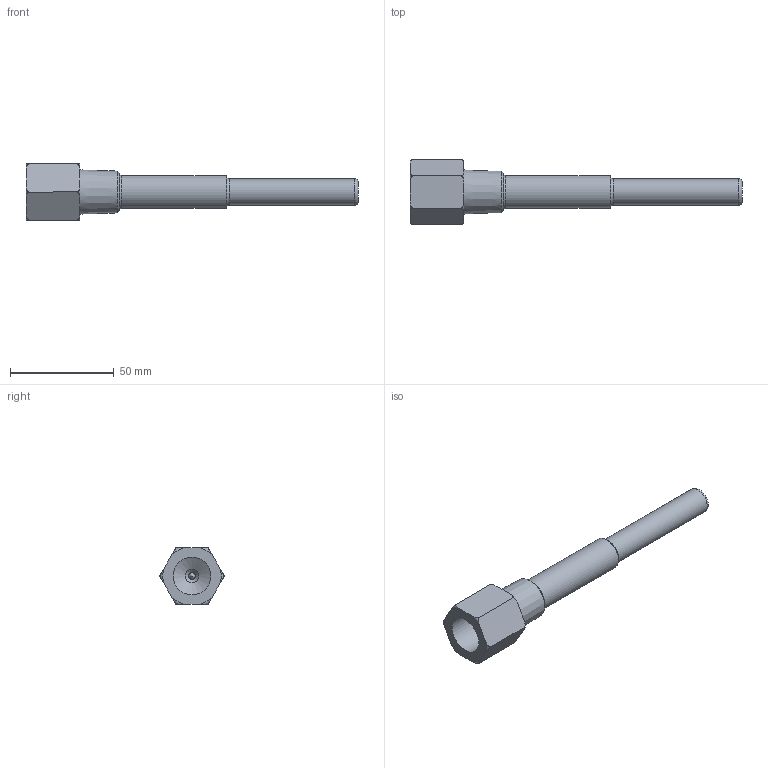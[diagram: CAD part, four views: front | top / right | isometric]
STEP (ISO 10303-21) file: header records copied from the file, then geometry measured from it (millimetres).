
FILE_DESCRIPTION( ( 'STEP AP203' ), ' ' );
FILE_NAME( 'p:/temp/worker_320/132_1956/app_50_02015121814205318702816192d056f_000000_00_00_000000/format_2/E37220.stp', '2015-12-18T13:20:53', ( '' ), ( '' ), ' ', 'PARTsolutions', ' ' );
FILE_SCHEMA( ( 'CONFIG_CONTROL_DESIGN' ) );
Length unit declared in the file: millimetre
Products named in the file (1): _E37220
Bounding box: 160 x 31.18 x 27 mm (x, y, z)
Volume: 31558.1 mm3; surface area: 13661 mm2
Topology: 1 solids, 1 shells, 35 faces, 82 edges, 52 vertices
Faces by surface type: torus 15, plane 11, cone 5, cylinder 4
Full cylindrical faces by diameter (mm): 6.6 x1, 12.7 x1, 15.9 x1, 18.161 x1
Entity records: 1266 total; most frequent: CARTESIAN_POINT 493, DIRECTION 144, ORIENTED_EDGE 138, EDGE_CURVE 69, AXIS2_PLACEMENT_3D 63, VERTEX_POINT 52, EDGE_LOOP 50, FACE_OUTER_BOUND 42
